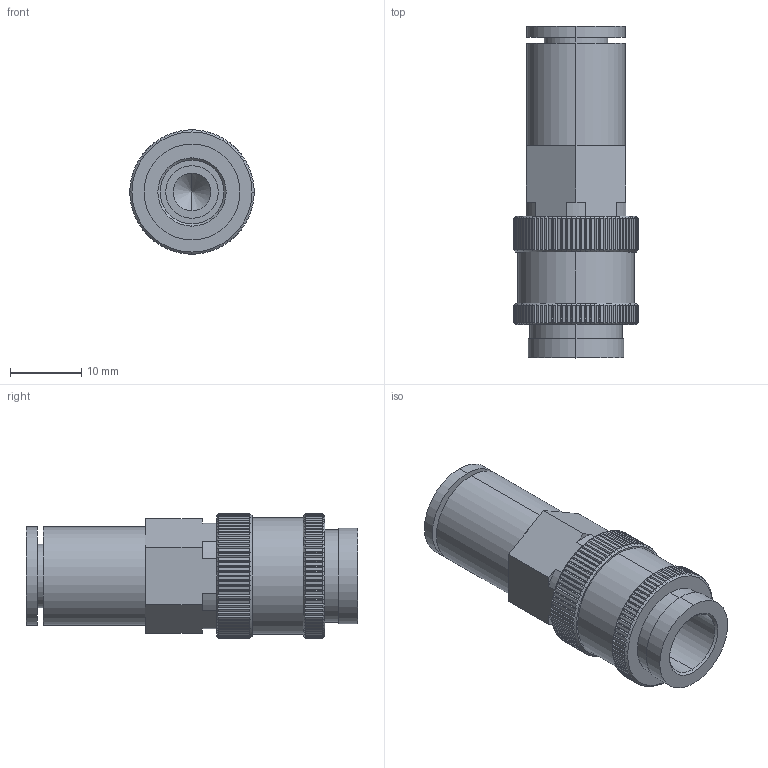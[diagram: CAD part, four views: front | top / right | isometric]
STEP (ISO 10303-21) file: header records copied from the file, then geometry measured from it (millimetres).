
FILE_DESCRIPTION (( 'STEP AP214' ), '1' );
FILE_NAME ('TZS-SK.STEP', '2022-04-26T15:51:48', ( '' ), ( '' ), 'SwSTEP 2.0', 'SolidWorks 2022', '' );
FILE_SCHEMA (( 'AUTOMOTIVE_DESIGN' ));
Length unit declared in the file: millimetre
Products named in the file (1): TZS-SK
Bounding box: 17.5 x 46.7 x 17.5 mm (x, y, z)
Volume: 5965.4 mm3; surface area: 4528.7 mm2
Topology: 1 solids, 1 shells, 547 faces, 1587 edges, 1053 vertices
Faces by surface type: plane 346, cylinder 189, cone 12
Entity records: 24690 total; most frequent: CARTESIAN_POINT 5106, ORIENTED_EDGE 3170, DIRECTION 2429, EDGE_CURVE 1585, VERTEX_POINT 1053, AXIS2_PLACEMENT_3D 936, B_SPLINE_CURVE_WITH_KNOTS 640, EDGE_LOOP 560
